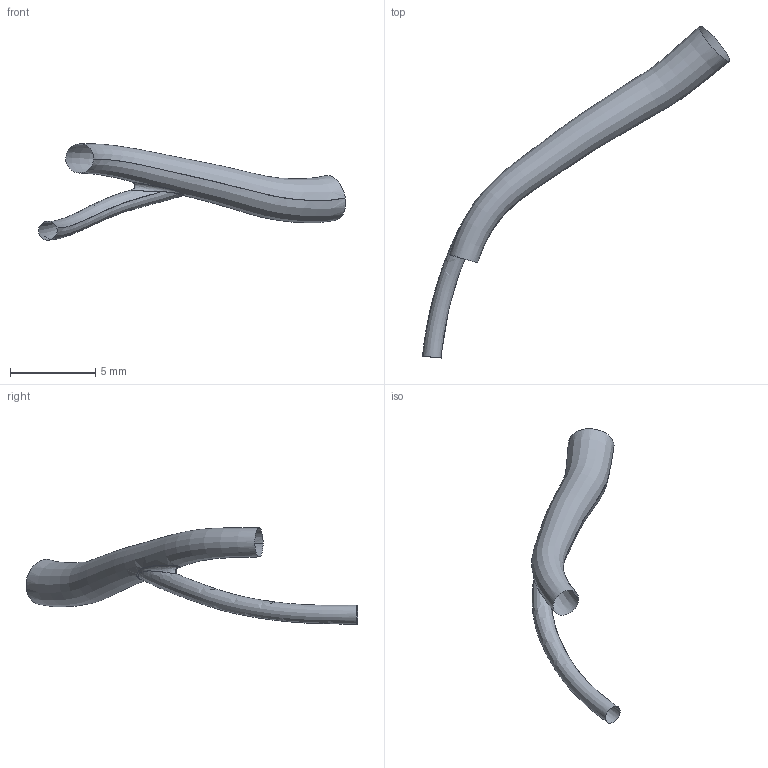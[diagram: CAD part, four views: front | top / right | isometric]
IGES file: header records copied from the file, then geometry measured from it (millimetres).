
Global section: file name: C:\Documents and Settings\Administrator\Desktop\FDA-Pig\Domestic LCA\Pig_000003\om.ed.igs; native system: Rhinoceros ( May 19 2006 ); preprocessor: Trout Lake IGES 012 May 19 2006; date: 111205.182935; units: centimetre
Bounding box: 18.01 x 19.46 x 5.65 mm (x, y, z)
Surface area: 184.9 mm2 (no closed solid volume)
Topology: 0 solids, 0 shells, 3 faces, 44 edges, 41 vertices
Faces by surface type: bspline 3
